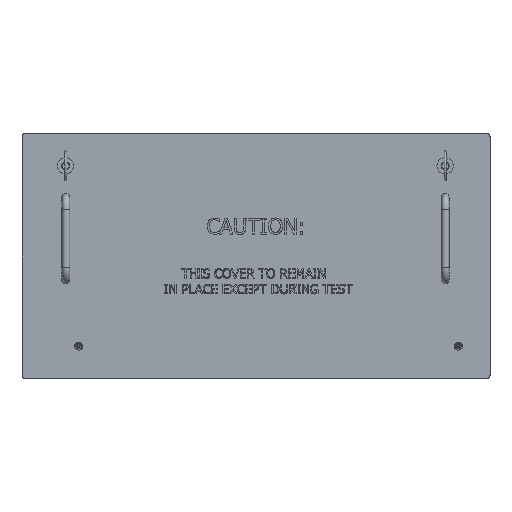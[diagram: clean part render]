
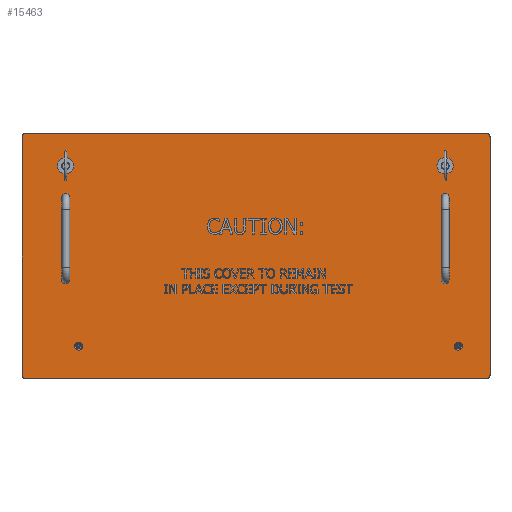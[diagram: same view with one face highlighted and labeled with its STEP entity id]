
A CAD part, top view. The second image highlights one B-rep face of the part: STEP entity #15463.
In plain terms, the highlighted planar face has unit normal (0, 0, 1).
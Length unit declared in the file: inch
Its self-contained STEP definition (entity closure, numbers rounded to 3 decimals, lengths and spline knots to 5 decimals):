
#1652=FACE_BOUND($,#3262,.T.);
#1653=FACE_BOUND($,#3263,.T.);
#1654=FACE_BOUND($,#3264,.T.);
#1655=FACE_BOUND($,#3265,.T.);
#1656=FACE_BOUND($,#3266,.T.);
#1657=FACE_BOUND($,#3267,.T.);
#1658=FACE_BOUND($,#3268,.T.);
#1659=FACE_BOUND($,#3269,.T.);
#1660=FACE_BOUND($,#3270,.T.);
#1816=PLANE($,#16478);
#3262=EDGE_LOOP($,(#11116));
#3263=EDGE_LOOP($,(#11117));
#3264=EDGE_LOOP($,(#11118));
#3265=EDGE_LOOP($,(#11119));
#3266=EDGE_LOOP($,(#11120));
#3267=EDGE_LOOP($,(#11121));
#3268=EDGE_LOOP($,(#11122));
#3269=EDGE_LOOP($,(#11123));
#3270=EDGE_LOOP($,(#11124,#11125,#11126,#11127,#11128,#11129,#11130,#11131));
#4281=LINE($,#20543,#5826);
#4282=LINE($,#20547,#5827);
#4283=LINE($,#20551,#5828);
#4284=LINE($,#20554,#5829);
#5826=VECTOR($,#17334,18.26);
#5827=VECTOR($,#17337,9.435);
#5828=VECTOR($,#17340,18.26);
#5829=VECTOR($,#17343,9.435);
#7370=CIRCLE($,#16477,0.12);
#7371=CIRCLE($,#16479,0.075);
#7372=CIRCLE($,#16480,0.075);
#7373=CIRCLE($,#16481,0.075);
#7374=CIRCLE($,#16482,0.075);
#7375=CIRCLE($,#16483,0.075);
#7376=CIRCLE($,#16484,0.075);
#7377=CIRCLE($,#16485,0.159);
#7378=CIRCLE($,#16486,0.159);
#7379=CIRCLE($,#16487,0.12);
#7380=CIRCLE($,#16488,0.12);
#7381=CIRCLE($,#16489,0.12);
#7496=VERTEX_POINT($,#20520);
#7497=VERTEX_POINT($,#20522);
#7498=VERTEX_POINT($,#20526);
#7499=VERTEX_POINT($,#20528);
#7500=VERTEX_POINT($,#20530);
#7501=VERTEX_POINT($,#20532);
#7502=VERTEX_POINT($,#20534);
#7503=VERTEX_POINT($,#20536);
#7504=VERTEX_POINT($,#20538);
#7505=VERTEX_POINT($,#20540);
#7506=VERTEX_POINT($,#20542);
#7507=VERTEX_POINT($,#20544);
#7508=VERTEX_POINT($,#20546);
#7509=VERTEX_POINT($,#20548);
#7510=VERTEX_POINT($,#20550);
#7511=VERTEX_POINT($,#20552);
#8960=EDGE_CURVE($,#7496,#7497,#7370,.T.);
#8962=EDGE_CURVE($,#7498,#7498,#7371,.T.);
#8963=EDGE_CURVE($,#7499,#7499,#7372,.T.);
#8964=EDGE_CURVE($,#7500,#7500,#7373,.T.);
#8965=EDGE_CURVE($,#7501,#7501,#7374,.T.);
#8966=EDGE_CURVE($,#7502,#7502,#7375,.T.);
#8967=EDGE_CURVE($,#7503,#7503,#7376,.T.);
#8968=EDGE_CURVE($,#7504,#7504,#7377,.T.);
#8969=EDGE_CURVE($,#7505,#7505,#7378,.T.);
#8970=EDGE_CURVE($,#7496,#7506,#4281,.T.);
#8971=EDGE_CURVE($,#7507,#7506,#7379,.T.);
#8972=EDGE_CURVE($,#7507,#7508,#4282,.T.);
#8973=EDGE_CURVE($,#7509,#7508,#7380,.T.);
#8974=EDGE_CURVE($,#7509,#7510,#4283,.T.);
#8975=EDGE_CURVE($,#7511,#7510,#7381,.T.);
#8976=EDGE_CURVE($,#7511,#7497,#4284,.T.);
#11116=ORIENTED_EDGE($,*,*,#8962,.T.);
#11117=ORIENTED_EDGE($,*,*,#8963,.T.);
#11118=ORIENTED_EDGE($,*,*,#8964,.T.);
#11119=ORIENTED_EDGE($,*,*,#8965,.T.);
#11120=ORIENTED_EDGE($,*,*,#8966,.T.);
#11121=ORIENTED_EDGE($,*,*,#8967,.T.);
#11122=ORIENTED_EDGE($,*,*,#8968,.T.);
#11123=ORIENTED_EDGE($,*,*,#8969,.T.);
#11124=ORIENTED_EDGE($,*,*,#8960,.F.);
#11125=ORIENTED_EDGE($,*,*,#8970,.T.);
#11126=ORIENTED_EDGE($,*,*,#8971,.F.);
#11127=ORIENTED_EDGE($,*,*,#8972,.T.);
#11128=ORIENTED_EDGE($,*,*,#8973,.F.);
#11129=ORIENTED_EDGE($,*,*,#8974,.T.);
#11130=ORIENTED_EDGE($,*,*,#8975,.F.);
#11131=ORIENTED_EDGE($,*,*,#8976,.T.);
#15463=ADVANCED_FACE($,(#1652,#1653,#1654,#1655,#1656,#1657,#1658,#1659,
#1660),#1816,.T.);
#16477=AXIS2_PLACEMENT_3D($,#20523,#17313,#17314);
#16478=AXIS2_PLACEMENT_3D($,#20525,#17316,#17317);
#16479=AXIS2_PLACEMENT_3D($,#20527,#17318,#17319);
#16480=AXIS2_PLACEMENT_3D($,#20529,#17320,#17321);
#16481=AXIS2_PLACEMENT_3D($,#20531,#17322,#17323);
#16482=AXIS2_PLACEMENT_3D($,#20533,#17324,#17325);
#16483=AXIS2_PLACEMENT_3D($,#20535,#17326,#17327);
#16484=AXIS2_PLACEMENT_3D($,#20537,#17328,#17329);
#16485=AXIS2_PLACEMENT_3D($,#20539,#17330,#17331);
#16486=AXIS2_PLACEMENT_3D($,#20541,#17332,#17333);
#16487=AXIS2_PLACEMENT_3D($,#20545,#17335,#17336);
#16488=AXIS2_PLACEMENT_3D($,#20549,#17338,#17339);
#16489=AXIS2_PLACEMENT_3D($,#20553,#17341,#17342);
#17313=DIRECTION('center_axis',(0.,0.,-1.));
#17314=DIRECTION('ref_axis',(0.707,0.707,0.));
#17316=DIRECTION('center_axis',(0.,0.,1.));
#17317=DIRECTION('ref_axis',(1.,0.,0.));
#17318=DIRECTION('center_axis',(0.,0.,-1.));
#17319=DIRECTION('ref_axis',(1.,0.,0.));
#17320=DIRECTION('center_axis',(0.,0.,-1.));
#17321=DIRECTION('ref_axis',(1.,0.,0.));
#17322=DIRECTION('center_axis',(0.,0.,-1.));
#17323=DIRECTION('ref_axis',(1.,0.,0.));
#17324=DIRECTION('center_axis',(0.,0.,-1.));
#17325=DIRECTION('ref_axis',(1.,0.,0.));
#17326=DIRECTION('center_axis',(0.,0.,-1.));
#17327=DIRECTION('ref_axis',(1.,0.,0.));
#17328=DIRECTION('center_axis',(0.,0.,-1.));
#17329=DIRECTION('ref_axis',(1.,0.,0.));
#17330=DIRECTION('center_axis',(0.,0.,-1.));
#17331=DIRECTION('ref_axis',(1.,0.,0.));
#17332=DIRECTION('center_axis',(0.,0.,-1.));
#17333=DIRECTION('ref_axis',(1.,0.,0.));
#17334=DIRECTION($,(-1.,0.,0.));
#17335=DIRECTION('center_axis',(0.,0.,-1.));
#17336=DIRECTION('ref_axis',(-0.707,0.707,0.));
#17337=DIRECTION($,(0.,-1.,0.));
#17338=DIRECTION('center_axis',(0.,0.,-1.));
#17339=DIRECTION('ref_axis',(-0.707,-0.707,0.));
#17340=DIRECTION($,(1.,0.,0.));
#17341=DIRECTION('center_axis',(0.,0.,-1.));
#17342=DIRECTION('ref_axis',(0.707,-0.707,0.));
#17343=DIRECTION($,(0.,1.,0.));
#20520=CARTESIAN_POINT('',(9.13,4.8375,0.));
#20522=CARTESIAN_POINT('',(9.25,4.7175,0.));
#20523=CARTESIAN_POINT('Origin',(9.13,4.7175,0.));
#20525=CARTESIAN_POINT('Origin',(0.,0.,0.));
#20526=CARTESIAN_POINT('',(7.549,-0.9376,0.));
#20527=CARTESIAN_POINT('Origin',(7.474,-0.9376,0.));
#20528=CARTESIAN_POINT('',(-7.451,-0.9376,0.));
#20529=CARTESIAN_POINT('Origin',(-7.526,-0.9376,0.));
#20530=CARTESIAN_POINT('',(7.549,2.3124,0.));
#20531=CARTESIAN_POINT('Origin',(7.474,2.3124,0.));
#20532=CARTESIAN_POINT('',(-7.451,2.3124,0.));
#20533=CARTESIAN_POINT('Origin',(-7.526,2.3124,0.));
#20534=CARTESIAN_POINT('',(8.069,-3.5625,0.));
#20535=CARTESIAN_POINT('Origin',(7.994,-3.5625,0.));
#20536=CARTESIAN_POINT('',(-6.931,-3.5625,0.));
#20537=CARTESIAN_POINT('Origin',(-7.006,-3.5625,0.));
#20538=CARTESIAN_POINT('',(7.633,3.5625,0.));
#20539=CARTESIAN_POINT('Origin',(7.474,3.5625,0.));
#20540=CARTESIAN_POINT('',(-7.367,3.5625,0.));
#20541=CARTESIAN_POINT('Origin',(-7.526,3.5625,0.));
#20542=CARTESIAN_POINT('',(-9.13,4.8375,0.));
#20543=CARTESIAN_POINT($,(9.25,4.8375,0.));
#20544=CARTESIAN_POINT('',(-9.25,4.7175,0.));
#20545=CARTESIAN_POINT('Origin',(-9.13,4.7175,0.));
#20546=CARTESIAN_POINT('',(-9.25,-4.7175,0.));
#20547=CARTESIAN_POINT($,(-9.25,4.8375,0.));
#20548=CARTESIAN_POINT('',(-9.13,-4.8375,0.));
#20549=CARTESIAN_POINT('Origin',(-9.13,-4.7175,0.));
#20550=CARTESIAN_POINT('',(9.13,-4.8375,0.));
#20551=CARTESIAN_POINT($,(-9.25,-4.8375,0.));
#20552=CARTESIAN_POINT('',(9.25,-4.7175,0.));
#20553=CARTESIAN_POINT('Origin',(9.13,-4.7175,0.));
#20554=CARTESIAN_POINT($,(9.25,-4.8375,0.));
